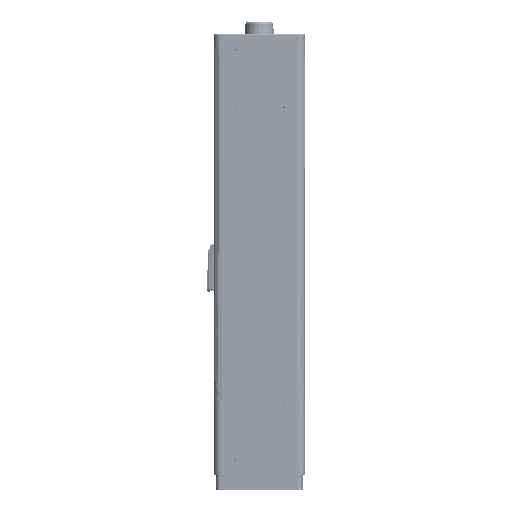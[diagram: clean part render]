
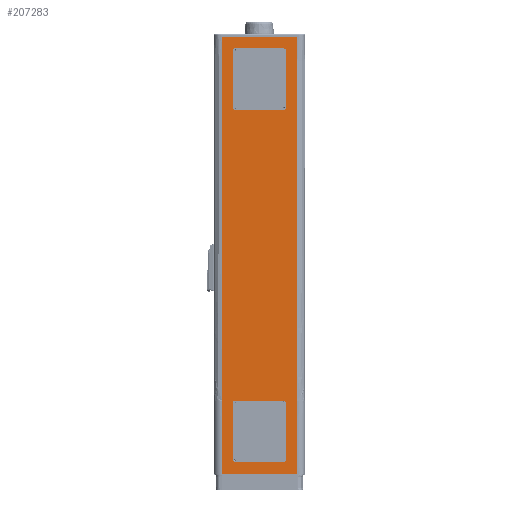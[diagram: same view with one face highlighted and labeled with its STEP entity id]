
A CAD part, top view. The second image highlights one B-rep face of the part: STEP entity #207283.
In plain terms, the highlighted planar face has unit normal (0, 0, 1).
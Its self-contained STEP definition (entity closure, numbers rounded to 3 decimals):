
#195774=CARTESIAN_POINT('',(-83.95,48.55,100.));
#195775=DIRECTION('',(0.,0.,-1.));
#195776=DIRECTION('',(-1.,0.,0.));
#195777=AXIS2_PLACEMENT_3D('',#195774,#195775,#195776);
#195796=CARTESIAN_POINT('',(-83.95,-149.65,100.));
#195797=DIRECTION('',(0.,0.,-1.));
#195798=DIRECTION('',(0.,-1.,0.));
#195799=AXIS2_PLACEMENT_3D('',#195796,#195797,#195798);
#195818=CARTESIAN_POINT('',(83.95,-149.65,100.));
#195819=DIRECTION('',(0.,0.,-1.));
#195820=DIRECTION('',(1.,0.,0.));
#195821=AXIS2_PLACEMENT_3D('',#195818,#195819,#195820);
#195840=CARTESIAN_POINT('',(83.95,48.55,100.));
#195841=DIRECTION('',(0.,0.,-1.));
#195842=DIRECTION('',(0.,1.,0.));
#195843=AXIS2_PLACEMENT_3D('',#195840,#195841,#195842);
#195862=DIRECTION('',(0.,1.,0.));
#195863=VECTOR('',#195862,198.2);
#195864=CARTESIAN_POINT('',(89.3,-149.65,100.));
#195865=LINE('',#195864,#195863);
#195869=DIRECTION('',(-1.,0.,0.));
#195870=VECTOR('',#195869,167.9);
#195871=CARTESIAN_POINT('',(83.95,53.9,100.));
#195872=LINE('',#195871,#195870);
#195876=DIRECTION('',(0.,-1.,0.));
#195877=VECTOR('',#195876,198.2);
#195878=CARTESIAN_POINT('',(-89.3,48.55,100.));
#195879=LINE('',#195878,#195877);
#195883=DIRECTION('',(1.,0.,0.));
#195884=VECTOR('',#195883,167.9);
#195885=CARTESIAN_POINT('',(-83.95,-155.,100.));
#195886=LINE('',#195885,#195884);
#195890=DIRECTION('',(-1.,0.,0.));
#195891=VECTOR('',#195890,167.9);
#195892=CARTESIAN_POINT('',(83.95,1251.9,100.));
#195893=LINE('',#195892,#195891);
#195897=DIRECTION('',(0.,-1.,0.));
#195898=VECTOR('',#195897,198.2);
#195899=CARTESIAN_POINT('',(-89.3,1246.55,100.));
#195900=LINE('',#195899,#195898);
#195904=DIRECTION('',(1.,0.,0.));
#195905=VECTOR('',#195904,167.9);
#195906=CARTESIAN_POINT('',(-83.95,1043.,100.));
#195907=LINE('',#195906,#195905);
#195911=DIRECTION('',(0.,1.,0.));
#195912=VECTOR('',#195911,198.2);
#195913=CARTESIAN_POINT('',(89.3,1048.35,100.));
#195914=LINE('',#195913,#195912);
#195918=DIRECTION('',(1.,0.,0.));
#195919=VECTOR('',#195918,253.);
#195920=CARTESIAN_POINT('',(-126.5,1290.,100.));
#195921=LINE('',#195920,#195919);
#195925=DIRECTION('',(0.,1.,0.));
#195926=VECTOR('',#195925,250.);
#195927=CARTESIAN_POINT('',(126.5,-197.,100.));
#195928=LINE('',#195927,#195926);
#195932=DIRECTION('',(1.,0.,0.));
#195933=VECTOR('',#195932,253.);
#195934=CARTESIAN_POINT('',(-126.5,-197.,100.));
#195935=LINE('',#195934,#195933);
#195939=DIRECTION('',(0.,1.,0.));
#195940=VECTOR('',#195939,1237.);
#195941=CARTESIAN_POINT('',(-126.5,53.,100.));
#195942=LINE('',#195941,#195940);
#195960=CARTESIAN_POINT('',(-83.95,1246.55,100.));
#195961=DIRECTION('',(0.,0.,-1.));
#195962=DIRECTION('',(-1.,0.,0.));
#195963=AXIS2_PLACEMENT_3D('',#195960,#195961,#195962);
#195982=CARTESIAN_POINT('',(-83.95,1048.35,100.));
#195983=DIRECTION('',(0.,0.,-1.));
#195984=DIRECTION('',(0.,-1.,0.));
#195985=AXIS2_PLACEMENT_3D('',#195982,#195983,#195984);
#196004=CARTESIAN_POINT('',(83.95,1048.35,100.));
#196005=DIRECTION('',(0.,0.,-1.));
#196006=DIRECTION('',(1.,0.,0.));
#196007=AXIS2_PLACEMENT_3D('',#196004,#196005,#196006);
#196026=CARTESIAN_POINT('',(83.95,1246.55,100.));
#196027=DIRECTION('',(0.,0.,-1.));
#196028=DIRECTION('',(0.,1.,0.));
#196029=AXIS2_PLACEMENT_3D('',#196026,#196027,#196028);
#204490=CARTESIAN_POINT('',(-126.5,1290.,100.));
#204495=CARTESIAN_POINT('',(-126.5,53.,100.));
#204523=DIRECTION('',(0.,1.,0.));
#204524=VECTOR('',#204523,250.);
#204525=CARTESIAN_POINT('',(-126.5,-197.,100.));
#204526=LINE('',#204525,#204524);
#204560=CARTESIAN_POINT('',(-126.5,-197.,100.));
#204791=CARTESIAN_POINT('',(126.5,53.,100.));
#204796=DIRECTION('',(0.,1.,0.));
#204797=VECTOR('',#204796,1237.);
#204798=CARTESIAN_POINT('',(126.5,53.,100.));
#204799=LINE('',#204798,#204797);
#205341=VERTEX_POINT('',#204560);
#205342=CARTESIAN_POINT('',(126.5,-197.,100.));
#205343=VERTEX_POINT('',#205342);
#205361=VERTEX_POINT('',#204791);
#205362=VERTEX_POINT('',#204495);
#205764=CARTESIAN_POINT('',(-89.3,48.55,100.));
#205765=VERTEX_POINT('',#205764);
#205766=CARTESIAN_POINT('',(-83.95,53.9,100.));
#205767=VERTEX_POINT('',#205766);
#205772=CARTESIAN_POINT('',(83.95,53.9,100.));
#205773=VERTEX_POINT('',#205772);
#205774=CARTESIAN_POINT('',(89.3,48.55,100.));
#205775=VERTEX_POINT('',#205774);
#205780=CARTESIAN_POINT('',(89.3,-149.65,100.));
#205781=VERTEX_POINT('',#205780);
#205782=CARTESIAN_POINT('',(83.95,-155.,100.));
#205783=VERTEX_POINT('',#205782);
#205788=CARTESIAN_POINT('',(-83.95,-155.,100.));
#205789=VERTEX_POINT('',#205788);
#205790=CARTESIAN_POINT('',(-89.3,-149.65,100.));
#205791=VERTEX_POINT('',#205790);
#205948=CARTESIAN_POINT('',(-89.3,1246.55,100.));
#205949=VERTEX_POINT('',#205948);
#205950=CARTESIAN_POINT('',(-83.95,1251.9,100.));
#205951=VERTEX_POINT('',#205950);
#205956=CARTESIAN_POINT('',(83.95,1251.9,100.));
#205957=VERTEX_POINT('',#205956);
#205958=CARTESIAN_POINT('',(89.3,1246.55,100.));
#205959=VERTEX_POINT('',#205958);
#205964=CARTESIAN_POINT('',(89.3,1048.35,100.));
#205965=VERTEX_POINT('',#205964);
#205966=CARTESIAN_POINT('',(83.95,1043.,100.));
#205967=VERTEX_POINT('',#205966);
#205972=CARTESIAN_POINT('',(-83.95,1043.,100.));
#205973=VERTEX_POINT('',#205972);
#205974=CARTESIAN_POINT('',(-89.3,1048.35,100.));
#205975=VERTEX_POINT('',#205974);
#206298=VERTEX_POINT('',#204490);
#206299=CARTESIAN_POINT('',(126.5,1290.,100.));
#206300=VERTEX_POINT('',#206299);
#207236=CARTESIAN_POINT('',(-126.5,0.,100.));
#207237=DIRECTION('',(0.,0.,1.));
#207238=DIRECTION('',(1.,0.,0.));
#207239=AXIS2_PLACEMENT_3D('',#207236,#207237,#207238);
#207240=PLANE('',#207239);
#207242=ORIENTED_EDGE('',*,*,#207241,.T.);
#207244=ORIENTED_EDGE('',*,*,#207243,.F.);
#207246=ORIENTED_EDGE('',*,*,#207245,.F.);
#207248=ORIENTED_EDGE('',*,*,#207247,.F.);
#207250=ORIENTED_EDGE('',*,*,#207249,.T.);
#207252=ORIENTED_EDGE('',*,*,#207251,.T.);
#207253=EDGE_LOOP('',(#207242,#207244,#207246,#207248,#207250,#207252));
#207254=FACE_OUTER_BOUND('',#207253,.F.);
#207256=ORIENTED_EDGE('',*,*,#207255,.T.);
#207258=ORIENTED_EDGE('',*,*,#207257,.F.);
#207260=ORIENTED_EDGE('',*,*,#207259,.T.);
#207262=ORIENTED_EDGE('',*,*,#207261,.F.);
#207264=ORIENTED_EDGE('',*,*,#207263,.T.);
#207266=ORIENTED_EDGE('',*,*,#207265,.F.);
#207268=ORIENTED_EDGE('',*,*,#207267,.T.);
#207270=ORIENTED_EDGE('',*,*,#207269,.F.);
#207271=EDGE_LOOP('',(#207256,#207258,#207260,#207262,#207264,#207266,#207268,
#207270));
#207272=FACE_BOUND('',#207271,.F.);
#207273=ORIENTED_EDGE('',*,*,#207202,.T.);
#207274=ORIENTED_EDGE('',*,*,#207217,.F.);
#207275=ORIENTED_EDGE('',*,*,#207229,.T.);
#207276=ORIENTED_EDGE('',*,*,#207132,.F.);
#207277=ORIENTED_EDGE('',*,*,#207148,.T.);
#207278=ORIENTED_EDGE('',*,*,#207161,.F.);
#207279=ORIENTED_EDGE('',*,*,#207174,.T.);
#207280=ORIENTED_EDGE('',*,*,#207189,.F.);
#207281=EDGE_LOOP('',(#207273,#207274,#207275,#207276,#207277,#207278,#207279,
#207280));
#207282=FACE_BOUND('',#207281,.F.);
#207283=ADVANCED_FACE('',(#207254,#207272,#207282),#207240,.T.);
#195778=CIRCLE('',#195777,5.35);
#195800=CIRCLE('',#195799,5.35);
#195822=CIRCLE('',#195821,5.35);
#195844=CIRCLE('',#195843,5.35);
#195964=CIRCLE('',#195963,5.35);
#195986=CIRCLE('',#195985,5.35);
#196008=CIRCLE('',#196007,5.35);
#196030=CIRCLE('',#196029,5.35);
#207132=EDGE_CURVE('',#205765,#205767,#195778,.T.);
#207148=EDGE_CURVE('',#205765,#205791,#195879,.T.);
#207161=EDGE_CURVE('',#205789,#205791,#195800,.T.);
#207174=EDGE_CURVE('',#205789,#205783,#195886,.T.);
#207189=EDGE_CURVE('',#205781,#205783,#195822,.T.);
#207202=EDGE_CURVE('',#205781,#205775,#195865,.T.);
#207217=EDGE_CURVE('',#205773,#205775,#195844,.T.);
#207229=EDGE_CURVE('',#205773,#205767,#195872,.T.);
#207241=EDGE_CURVE('',#206298,#206300,#195921,.T.);
#207243=EDGE_CURVE('',#205361,#206300,#204799,.T.);
#207245=EDGE_CURVE('',#205343,#205361,#195928,.T.);
#207247=EDGE_CURVE('',#205341,#205343,#195935,.T.);
#207249=EDGE_CURVE('',#205341,#205362,#204526,.T.);
#207251=EDGE_CURVE('',#205362,#206298,#195942,.T.);
#207255=EDGE_CURVE('',#205957,#205951,#195893,.T.);
#207257=EDGE_CURVE('',#205949,#205951,#195964,.T.);
#207259=EDGE_CURVE('',#205949,#205975,#195900,.T.);
#207261=EDGE_CURVE('',#205973,#205975,#195986,.T.);
#207263=EDGE_CURVE('',#205973,#205967,#195907,.T.);
#207265=EDGE_CURVE('',#205965,#205967,#196008,.T.);
#207267=EDGE_CURVE('',#205965,#205959,#195914,.T.);
#207269=EDGE_CURVE('',#205957,#205959,#196030,.T.);
